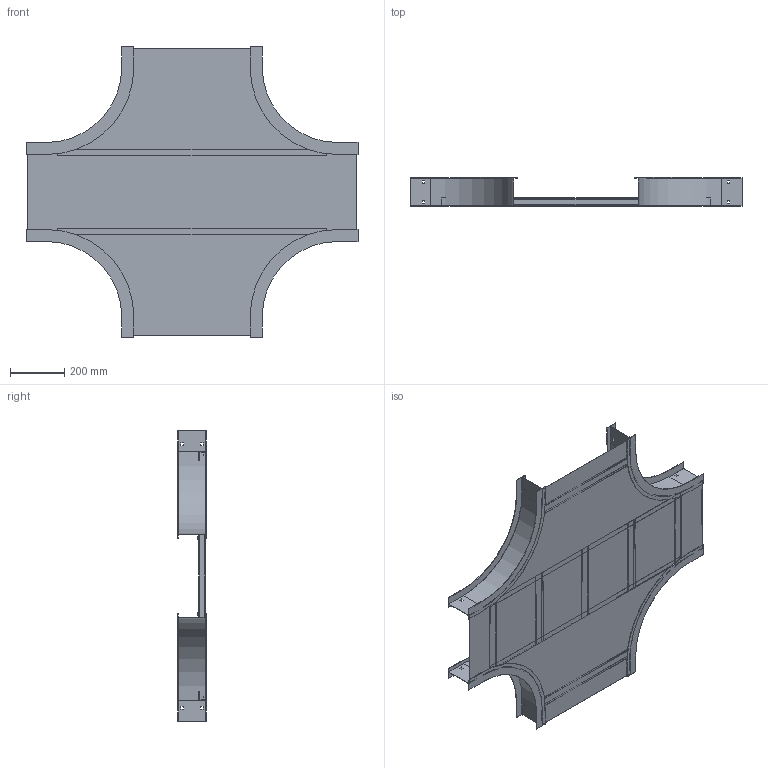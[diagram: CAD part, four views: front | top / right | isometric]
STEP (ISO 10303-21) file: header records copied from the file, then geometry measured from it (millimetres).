
FILE_DESCRIPTION((''),'2;1');
FILE_NAME('AHF41218SEX12_ASM','2010-02-01T',('erouzier'),(''),'PRO/ENGINEER BY PARAMETRIC TECHNOLOGY CORPORATION, 2008510','PRO/ENGINEER BY PARAMETRIC TECHNOLOGY CORPORATION, 2008510','');
FILE_SCHEMA(('CONFIG_CONTROL_DESIGN'));
Length unit declared in the file: inch
Products named in the file (11): CDS001810-4-90-12-I; CDS002159L12_AF16; CDS002159L12_AF17; CDS002159L12_AF18; CDS002159L12_AF19; CDS002159L12_AF20; CDS000495_GEN_AF14; CDS000495_GEN_AF15; CDS002159L18; CDS014308-12-12-18; AHF41218SEX12_ASM
Assembly tree (14 placements, depth 2):
  AHF41218SEX12_ASM
    CDS001810-4-90-12-I  x4
    CDS002159L12_AF16
    CDS002159L12_AF17
    CDS002159L12_AF18
    CDS002159L12_AF19
    CDS002159L12_AF20
    CDS000495_GEN_AF14
    CDS000495_GEN_AF15
    CDS002159L18  x2
    CDS014308-12-12-18
Bounding box: 1223.01 x 106.05 x 1070.61 mm (x, y, z)
Volume: 2412140.9 mm3; surface area: 3408512.1 mm2
Topology: 14 solids, 14 shells, 416 faces, 1164 edges, 776 vertices
Faces by surface type: plane 311, cylinder 105
Entity records: 8598 total; most frequent: CARTESIAN_POINT 1485, DIRECTION 1442, ORIENTED_EDGE 1440, EDGE_CURVE 720, VECTOR 568, LINE 568, VERTEX_POINT 480, AXIS2_PLACEMENT_3D 437
